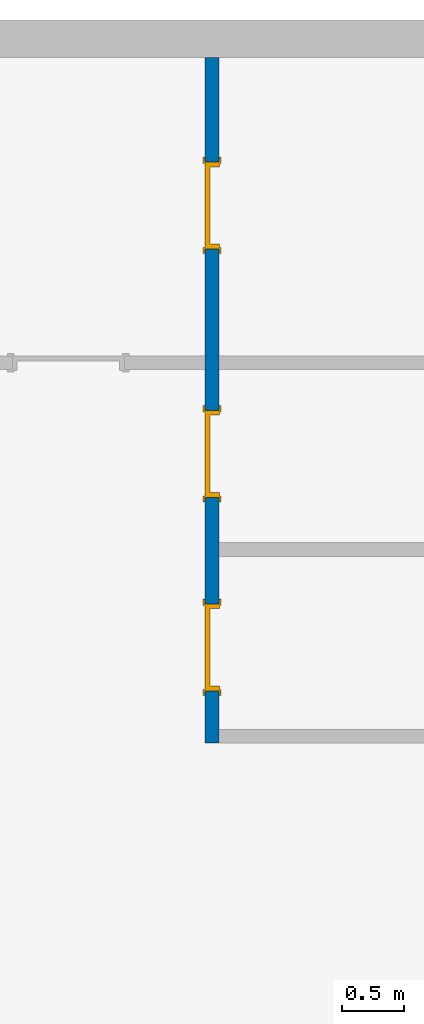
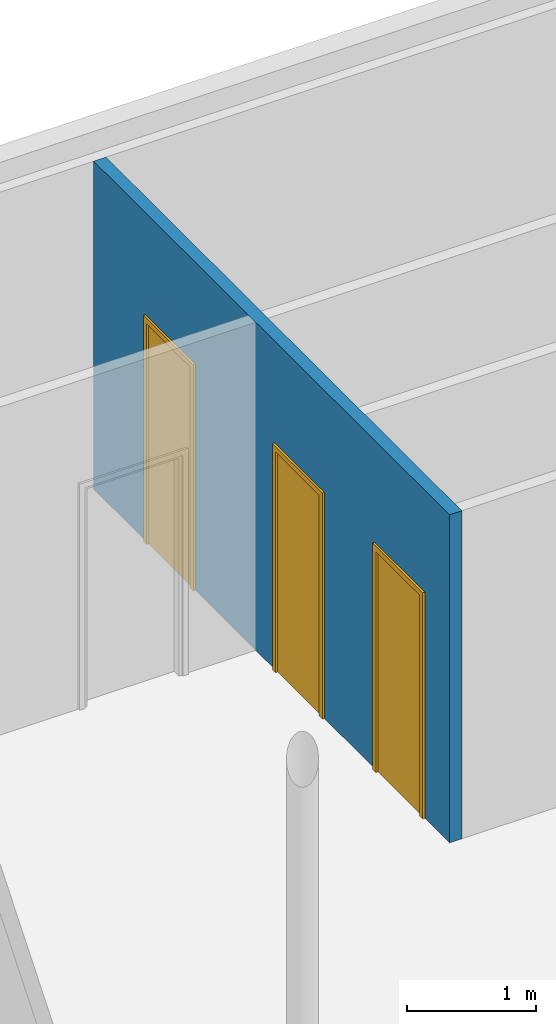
# One storey, part 7 of 25: 3 doors, 1 wall, 3 openings.
"""IFC2X3 building model written with IfcOpenShell, lengths in millimetres."""

from ifc_helpers import new_model, entity, si_unit, converted_unit, derived_unit, money_unit, direction, frame, origin_with_axes, place, context, subcontext, project, spatial, faceted_brep, source, transform, mapped, material, type_object, element, fill, save


model = new_model("IFC2X3")

# Units and contexts
model_context = context("Model", 3, precision=0.01, world=origin_with_axes(), true_north=direction((0.0, 1.0)))
body_context = subcontext(model_context, "Body", "Model", "MODEL_VIEW")
ifc_project = project(units=[si_unit("LENGTHUNIT", "METRE", prefix="MILLI"), si_unit("AREAUNIT", "SQUARE_METRE"), si_unit("VOLUMEUNIT", "CUBIC_METRE"), converted_unit("PLANEANGLEUNIT", "DEGREE", entity("IfcPlaneAngleMeasure", 0.0174532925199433), si_unit("PLANEANGLEUNIT", "RADIAN"), dimensions=[0, 0, 0, 0, 0, 0, 0]), money_unit("USD"), converted_unit("TIMEUNIT", "Year", entity("IfcTimeMeasure", 31557600.0), si_unit("TIMEUNIT", "SECOND"), dimensions=[0, 0, 1, 0, 0, 0, 0]), si_unit("MASSUNIT", "GRAM", prefix="KILO"), si_unit("THERMODYNAMICTEMPERATUREUNIT", "DEGREE_CELSIUS"), si_unit("LUMINOUSINTENSITYUNIT", "LUMEN"), si_unit("ENERGYUNIT", "JOULE", prefix="MEGA"), derived_unit("THERMALCONDUCTANCEUNIT", [(si_unit("POWERUNIT", "WATT"), 1), (si_unit("LENGTHUNIT", "METRE"), -1), (si_unit("THERMODYNAMICTEMPERATUREUNIT", "KELVIN"), -1)]), derived_unit("SPECIFICHEATCAPACITYUNIT", [(si_unit("ENERGYUNIT", "JOULE"), 1), (si_unit("MASSUNIT", "GRAM", prefix="KILO"), -1), (si_unit("THERMODYNAMICTEMPERATUREUNIT", "KELVIN"), -1)]), derived_unit("MASSDENSITYUNIT", [(si_unit("MASSUNIT", "GRAM", prefix="KILO"), 1), (si_unit("VOLUMEUNIT", "CUBIC_METRE"), -1)])], contexts=[model_context])

# Site, building, storey
site_placement = place(None, origin_with_axes())
site = spatial("IfcSite", under=ifc_project, at=site_placement, Name="Site", CompositionType="ELEMENT")
building_placement = place(site_placement, origin_with_axes())
building = spatial("IfcBuilding", under=site, at=building_placement, Name="Building", CompositionType="ELEMENT")
storey_placement = place(building_placement, origin_with_axes())
storey = spatial("IfcBuildingStorey", under=building, at=storey_placement, Name="U ETG", CompositionType="ELEMENT", Elevation=0.0)

# Wall, openings, doors
ifc_material = material(Name="GENERIC - INTERNAL FILLER")
wall_type = type_object("IfcWallType", Name="GENERIC - INTERNAL FILLER 110", PredefinedType="NOTDEFINED")
wall_placement = place(storey_placement, frame((15900.00000000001, 21700.0, 0.0), z_axis=(0.0, 0.0, 1.0), x_axis=(0.0, -1.0, 0.0)))
wall = element("IfcWall", 1, at=wall_placement, inside=storey, type_object=wall_type, material=ifc_material, Name="SW - 001", context=body_context, shape_type="Brep", body=[
    faceted_brep([(5090.714748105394, 0.0, 0.0), (5090.714748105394, 0.0, 2100.0), (4390.714748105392, 0.0, 2100.0), (4390.714748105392, 0.0, 0.0), (3535.969564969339, 0.0, 0.0), (3535.969564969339, 0.0, 2100.0), (2835.969564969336, 0.0, 2100.0), (2835.969564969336, 0.0, 0.0), (1539.349435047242, 0.0, 0.0), (1539.349435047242, 0.0, 2100.0), (839.3494350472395, 0.0, 2100.0), (839.3494350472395, 0.0, 0.0), (0.0, 0.0, 0.0), (0.0, 0.0, 3100.0), (5510.000000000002, 0.0, 3100.0), (5510.000000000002, 0.0, 0.0), (5090.714748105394, -110.0000000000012, 0.0), (5090.714748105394, -109.9999999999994, 2100.0), (4390.714748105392, -109.9999999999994, 2100.0), (4390.714748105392, -110.0000000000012, 0.0), (3535.969564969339, -110.0000000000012, 0.0), (3535.969564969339, -109.9999999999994, 2100.0), (2835.969564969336, -109.9999999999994, 2100.0), (2835.969564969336, -109.9999999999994, 0.0), (1539.349435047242, -109.9999999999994, 0.0), (1539.349435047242, -109.9999999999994, 2100.0), (839.3494350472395, -109.9999999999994, 2100.0), (839.3494350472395, -109.9999999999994, 0.0), (0.0, -109.9999999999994, 0.0), (0.0, -109.9999999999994, 3100.0), (5510.000000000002, -110.0000000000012, 3100.0), (5510.000000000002, -110.0000000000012, 0.0)], [[[0, 1, 2, 3, 4, 5, 6, 7, 8, 9, 10, 11, 12, 13, 14, 15]], [[1, 0, 16, 17]], [[2, 1, 17, 18]], [[3, 2, 18, 19]], [[3, 19, 20, 4]], [[4, 20, 21, 5]], [[5, 21, 22, 6]], [[6, 22, 23, 7]], [[23, 24, 8, 7]], [[24, 25, 9, 8]], [[25, 26, 10, 9]], [[26, 27, 11, 10]], [[28, 12, 11, 27]], [[13, 12, 28, 29]], [[13, 29, 30, 14]], [[31, 15, 14, 30]], [[16, 0, 15, 31]], [[17, 16, 31, 30, 29, 28, 27, 26, 25, 24, 23, 22, 21, 20, 19, 18]]]),
])
opening_1_placement = place(wall_placement, frame((1189.349435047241, 0.0, 0.0), z_axis=(0.0, 0.0, 1.0), x_axis=(1.0, 0.0, 0.0)))
opening_1 = element("IfcOpeningElement", 2, at=opening_1_placement, cuts=wall, Name="DOO - 002", context=body_context, shape_type="Brep", body=[
    faceted_brep([(-350.0000000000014, -109.9999999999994, 0.0), (-350.0000000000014, -109.9999999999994, 2100.0), (-350.0000000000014, 0.0, 2100.0), (-350.0000000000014, 0.0, 0.0), (350.0000000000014, -109.9999999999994, 2100.0), (-387.0000000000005, -109.9999999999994, 0.0), (-387.0000000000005, -109.9999999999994, 2137.0), (387.0000000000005, -109.9999999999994, 2137.0), (387.0000000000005, -109.9999999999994, 0.0), (350.0000000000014, -109.9999999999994, 0.0), (350.0000000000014, 0.0, 2100.0), (350.0000000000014, 0.0, 0.0), (387.0000000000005, 0.0, 0.0), (387.0000000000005, 0.0, 2137.0), (-387.0000000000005, 0.0, 2137.0), (-387.0000000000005, 0.0, 0.0), (-350.0000000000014, -110.9999999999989, 0.0), (-350.0000000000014, 0.9999999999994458, 0.0), (350.0000000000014, 0.9999999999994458, 0.0), (350.0000000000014, -110.9999999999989, 0.0), (-387.0000000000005, -110.9999999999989, 0.0), (-387.0000000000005, -110.9999999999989, 2137.0), (387.0000000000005, -110.9999999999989, 2137.0), (387.0000000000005, -110.9999999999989, 0.0), (387.0000000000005, 0.9999999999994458, 0.0), (387.0000000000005, 0.9999999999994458, 2137.0), (-387.0000000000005, 1.000000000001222, 2137.0), (-387.0000000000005, 0.9999999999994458, 0.0), (-350.0000000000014, -110.9999999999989, 2100.0), (350.0000000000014, -110.9999999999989, 2100.0)], [[[0, 1, 2, 3]], [[4, 1, 0, 5, 6, 7, 8, 9]], [[1, 4, 10, 2]], [[3, 2, 10, 11, 12, 13, 14, 15]], [[16, 0, 3, 17, 18, 11, 9, 19]], [[0, 16, 20, 5]], [[6, 5, 20, 21]], [[7, 6, 21, 22]], [[8, 7, 22, 23]], [[19, 9, 8, 23]], [[4, 9, 11, 10]], [[11, 18, 24, 12]], [[13, 12, 24, 25]], [[14, 13, 25, 26]], [[15, 14, 26, 27]], [[17, 3, 15, 27]], [[17, 27, 26, 25, 24, 18]], [[28, 16, 19, 29]], [[16, 28, 29, 19, 23, 22, 21, 20]]]),
])
opening_2_placement = place(wall_placement, frame((3185.969564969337, 0.0, 0.0), z_axis=(0.0, 0.0, 1.0), x_axis=(1.0, 0.0, 0.0)))
opening_2 = element("IfcOpeningElement", 3, at=opening_2_placement, cuts=wall, Name="DOO - 002", context=body_context, shape_type="Brep", body=[
    faceted_brep([(-350.0000000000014, -109.9999999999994, 0.0), (-350.0000000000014, -109.9999999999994, 2100.0), (-350.0000000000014, 0.0, 2100.0), (-350.0000000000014, 0.0, 0.0), (350.0000000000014, -109.9999999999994, 2100.0), (-387.0000000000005, -109.9999999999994, 0.0), (-387.0000000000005, -109.9999999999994, 2137.0), (387.0000000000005, -109.9999999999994, 2137.0), (387.0000000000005, -109.9999999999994, 0.0), (350.0000000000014, -109.9999999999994, 0.0), (350.0000000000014, 0.0, 2100.0), (350.0000000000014, 0.0, 0.0), (387.0000000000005, 0.0, 0.0), (387.0000000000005, 0.0, 2137.0), (-387.0000000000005, 0.0, 2137.0), (-387.0000000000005, 0.0, 0.0), (-350.0000000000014, -110.9999999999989, 0.0), (-350.0000000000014, 0.9999999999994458, 0.0), (350.0000000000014, 0.9999999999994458, 0.0), (350.0000000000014, -110.9999999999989, 0.0), (-387.0000000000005, -110.9999999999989, 0.0), (-387.0000000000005, -110.9999999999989, 2137.0), (387.0000000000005, -110.9999999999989, 2137.0), (387.0000000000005, -110.9999999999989, 0.0), (387.0000000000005, 0.9999999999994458, 0.0), (387.0000000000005, 0.9999999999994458, 2137.0), (-387.0000000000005, 1.000000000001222, 2137.0), (-387.0000000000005, 0.9999999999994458, 0.0), (-350.0000000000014, -110.9999999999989, 2100.0), (350.0000000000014, -110.9999999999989, 2100.0)], [[[0, 1, 2, 3]], [[4, 1, 0, 5, 6, 7, 8, 9]], [[1, 4, 10, 2]], [[3, 2, 10, 11, 12, 13, 14, 15]], [[16, 0, 3, 17, 18, 11, 9, 19]], [[0, 16, 20, 5]], [[6, 5, 20, 21]], [[7, 6, 21, 22]], [[8, 7, 22, 23]], [[19, 9, 8, 23]], [[4, 9, 11, 10]], [[11, 18, 24, 12]], [[13, 12, 24, 25]], [[14, 13, 25, 26]], [[15, 14, 26, 27]], [[17, 3, 15, 27]], [[17, 27, 26, 25, 24, 18]], [[28, 16, 19, 29]], [[16, 28, 29, 19, 23, 22, 21, 20]]]),
])
opening_3_placement = place(wall_placement, frame((4740.714748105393, 0.0, 0.0), z_axis=(0.0, 0.0, 1.0), x_axis=(1.0, 0.0, 0.0)))
opening_3 = element("IfcOpeningElement", 4, at=opening_3_placement, cuts=wall, Name="DOO - 002", context=body_context, shape_type="Brep", body=[
    faceted_brep([(-350.0000000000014, -109.9999999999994, 0.0), (-350.0000000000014, -109.9999999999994, 2100.0), (-350.0000000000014, 0.0, 2100.0), (-350.0000000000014, 0.0, 0.0), (350.0000000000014, -109.9999999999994, 2100.0), (-387.0000000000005, -109.9999999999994, 0.0), (-387.0000000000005, -109.9999999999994, 2137.0), (387.0000000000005, -109.9999999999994, 2137.0), (387.0000000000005, -109.9999999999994, 0.0), (350.0000000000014, -109.9999999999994, 0.0), (350.0000000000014, 0.0, 2100.0), (350.0000000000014, 0.0, 0.0), (387.0000000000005, 0.0, 0.0), (387.0000000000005, 0.0, 2137.0), (-387.0000000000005, 0.0, 2137.0), (-387.0000000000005, 0.0, 0.0), (-350.0000000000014, -110.9999999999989, 0.0), (-350.0000000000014, 0.9999999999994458, 0.0), (350.0000000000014, 0.9999999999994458, 0.0), (350.0000000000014, -110.9999999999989, 0.0), (-387.0000000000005, -110.9999999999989, 0.0), (-387.0000000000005, -110.9999999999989, 2137.0), (387.0000000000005, -110.9999999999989, 2137.0), (387.0000000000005, -110.9999999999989, 0.0), (387.0000000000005, 0.9999999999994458, 0.0), (387.0000000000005, 0.9999999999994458, 2137.0), (-387.0000000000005, 1.000000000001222, 2137.0), (-387.0000000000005, 0.9999999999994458, 0.0), (-350.0000000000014, -110.9999999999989, 2100.0), (350.0000000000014, -110.9999999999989, 2100.0)], [[[0, 1, 2, 3]], [[4, 1, 0, 5, 6, 7, 8, 9]], [[1, 4, 10, 2]], [[3, 2, 10, 11, 12, 13, 14, 15]], [[16, 0, 3, 17, 18, 11, 9, 19]], [[0, 16, 20, 5]], [[6, 5, 20, 21]], [[7, 6, 21, 22]], [[8, 7, 22, 23]], [[19, 9, 8, 23]], [[4, 9, 11, 10]], [[11, 18, 24, 12]], [[13, 12, 24, 25]], [[14, 13, 25, 26]], [[15, 14, 26, 27]], [[17, 3, 15, 27]], [[17, 27, 26, 25, 24, 18]], [[28, 16, 19, 29]], [[16, 28, 29, 19, 23, 22, 21, 20]]]),
])
door_style = type_object("IfcDoorStyle", Name="Dør", ConstructionType="NOTDEFINED", OperationType="SINGLE_SWING_RIGHT", ParameterTakesPrecedence=False, Sizeable=False)
shared_shape = source(origin_with_axes(), body_context, "Body", "Brep", [
    faceted_brep([(-386.9999999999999, -129.0, 0.0), (-386.9999999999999, -110.0, 0.0), (-336.9999999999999, -110.0, 0.0), (-336.9999999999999, -129.0, 0.0), (-386.9999999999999, -129.0000000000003, 2137.0), (-386.9999999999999, -110.0000000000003, 2137.0), (-336.9999999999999, -110.0000000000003, 2087.0), (-336.9999999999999, -129.0000000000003, 2087.0)], [[[0, 1, 2, 3]], [[4, 5, 1, 0]], [[1, 5, 6, 2]], [[3, 2, 6, 7]], [[0, 3, 7, 4]], [[7, 6, 5, 4]]]),
    faceted_brep([(386.9999999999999, -129.0000000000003, 2137.0), (386.9999999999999, -110.0000000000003, 2137.0), (336.9999999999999, -110.0000000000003, 2087.0), (336.9999999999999, -129.0000000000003, 2087.0), (386.9999999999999, -129.0, 0.0), (386.9999999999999, -110.0, 0.0), (336.9999999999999, -110.0, 0.0), (336.9999999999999, -129.0, 0.0)], [[[0, 1, 2, 3]], [[4, 5, 1, 0]], [[1, 5, 6, 2]], [[3, 2, 6, 7]], [[0, 3, 7, 4]], [[7, 6, 5, 4]]]),
    faceted_brep([(-386.9999999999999, -129.0000000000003, 2137.0), (-386.9999999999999, -110.0000000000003, 2137.0), (-336.9999999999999, -110.0000000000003, 2087.0), (-336.9999999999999, -129.0000000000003, 2087.0), (386.9999999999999, -129.0000000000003, 2137.0), (386.9999999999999, -110.0000000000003, 2137.0), (336.9999999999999, -110.0000000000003, 2087.0), (336.9999999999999, -129.0000000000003, 2087.0)], [[[0, 1, 2, 3]], [[4, 5, 1, 0]], [[1, 5, 6, 2]], [[3, 2, 6, 7]], [[0, 3, 7, 4]], [[7, 6, 5, 4]]]),
    faceted_brep([(-386.9999999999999, 19.0, 0.0), (-336.9999999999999, 19.0, 0.0), (-336.9999999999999, 0.0, 0.0), (-386.9999999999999, 0.0, 0.0), (-386.9999999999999, 18.99999999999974, 2137.0), (-336.9999999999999, 18.99999999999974, 2087.0), (-336.9999999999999, 0.0, 2087.0), (-386.9999999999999, 0.0, 2137.0)], [[[0, 1, 2, 3]], [[0, 4, 5, 1]], [[1, 5, 6, 2]], [[3, 2, 6, 7]], [[4, 0, 3, 7]], [[5, 4, 7, 6]]]),
    faceted_brep([(386.9999999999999, 18.99999999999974, 2137.0), (336.9999999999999, 18.99999999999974, 2087.0), (336.9999999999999, 0.0, 2087.0), (386.9999999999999, 0.0, 2137.0), (386.9999999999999, 19.0, 0.0), (336.9999999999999, 19.0, 0.0), (336.9999999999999, 0.0, 0.0), (386.9999999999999, 0.0, 0.0)], [[[0, 1, 2, 3]], [[0, 4, 5, 1]], [[1, 5, 6, 2]], [[3, 2, 6, 7]], [[4, 0, 3, 7]], [[5, 4, 7, 6]]]),
    faceted_brep([(-387.0, 18.99999999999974, 2137.0), (-336.9999999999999, 18.99999999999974, 2087.0), (-336.9999999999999, 0.0, 2087.0), (-387.0, 0.0, 2137.0), (387.0, 18.99999999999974, 2137.0), (336.9999999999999, 18.99999999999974, 2087.0), (336.9999999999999, 0.0, 2087.0), (387.0, 0.0, 2137.0)], [[[0, 1, 2, 3]], [[0, 4, 5, 1]], [[1, 5, 6, 2]], [[3, 2, 6, 7]], [[4, 0, 3, 7]], [[5, 4, 7, 6]]]),
    faceted_brep([(-350.0, 0.0, 0.0), (-310.0, 0.0, 0.0), (-310.0, -115.0, 0.0), (-350.0, -115.0, 0.0), (-350.0, 0.0, 2060.0), (-310.0, 0.0, 2060.0), (-310.0, -115.0, 2060.0), (-350.0, -115.0, 2060.0)], [[[0, 1, 2, 3]], [[0, 4, 5, 1]], [[1, 5, 6, 2]], [[3, 2, 6, 7]], [[4, 0, 3, 7]], [[5, 4, 7, 6]]]),
    faceted_brep([(350.0, 0.0, 0.0), (350.0, 0.0, 2060.0), (350.0, -115.0, 2060.0), (350.0, -115.0, 0.0), (310.0, 0.0, 0.0), (310.0, 0.0, 2060.0), (310.0, -115.0, 2060.0), (310.0, -115.0, 0.0)], [[[0, 1, 2, 3]], [[0, 4, 5, 1]], [[1, 5, 6, 2]], [[3, 2, 6, 7]], [[4, 0, 3, 7]], [[5, 4, 7, 6]]]),
    faceted_brep([(-350.0, 0.0, 2100.0), (-350.0, 0.0, 2060.0), (-350.0, -115.0, 2060.0), (-350.0, -115.0, 2100.0), (350.0, 0.0, 2100.0), (350.0, 0.0, 2060.0), (310.0, 0.0, 2060.0), (-310.0, 0.0, 2060.0), (-310.0, -115.0, 2060.0), (310.0, -115.0, 2060.0), (350.0, -115.0, 2060.0), (350.0, -115.0, 2100.0)], [[[0, 1, 2, 3]], [[0, 4, 5, 6, 7, 1]], [[1, 7, 8, 2]], [[3, 2, 8, 9, 10, 11]], [[4, 0, 3, 11]], [[5, 4, 11, 10]], [[6, 5, 10, 9]], [[7, 6, 9, 8]]]),
    faceted_brep([(309.9999999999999, 0.0, 0.0), (309.9999999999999, -40.0, 0.0), (-310.0, -40.0, 0.0), (-310.0, 0.0, 0.0), (309.9999999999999, 0.0, 2060.0), (309.9999999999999, -40.00000000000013, 2060.0), (-310.0, -40.00000000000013, 2060.0), (-310.0, 0.0, 2060.0)], [[[0, 1, 2, 3]], [[4, 5, 1, 0]], [[1, 5, 6, 2]], [[3, 2, 6, 7]], [[0, 3, 7, 4]], [[7, 6, 5, 4]]]),
])
door_1_placement = place(opening_1_placement, frame((350.0000000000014, 0.0, 0.0), z_axis=(0.0, 0.0, 1.0), x_axis=(-1.0, 0.0, 0.0)))
door_1 = element("IfcDoor", 5, at=door_1_placement, inside=storey, type_object=door_style, Name="DOO - 002", ObjectType="DOOR", OverallHeight=2100.0, OverallWidth=700.0, context=body_context, shape_type="MappedRepresentation", body=[
    mapped(shared_shape, transform((350.0000000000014, 109.9999999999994, 0.0))),
])
fill(opening_1, door_1)
door_2_placement = place(opening_2_placement, frame((350.0000000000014, 0.0, 0.0), z_axis=(0.0, 0.0, 1.0), x_axis=(-1.0, 0.0, 0.0)))
door_2 = element("IfcDoor", 6, at=door_2_placement, inside=storey, type_object=door_style, Name="DOO - 002", ObjectType="DOOR", OverallHeight=2100.0, OverallWidth=700.0, context=body_context, shape_type="MappedRepresentation", body=[
    mapped(shared_shape, transform((350.0000000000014, 109.9999999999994, 0.0))),
])
fill(opening_2, door_2)
door_3_placement = place(opening_3_placement, frame((350.0000000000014, 0.0, 0.0), z_axis=(0.0, 0.0, 1.0), x_axis=(-1.0, 0.0, 0.0)))
door_3 = element("IfcDoor", 7, at=door_3_placement, inside=storey, type_object=door_style, Name="DOO - 002", ObjectType="DOOR", OverallHeight=2100.0, OverallWidth=700.0, context=body_context, shape_type="MappedRepresentation", body=[
    mapped(shared_shape, transform((350.0000000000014, 109.9999999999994, 0.0))),
])
fill(opening_3, door_3)

save(model, "model.ifc")
